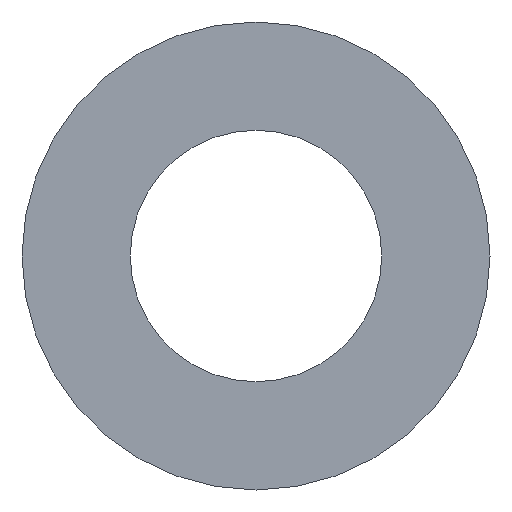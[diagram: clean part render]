
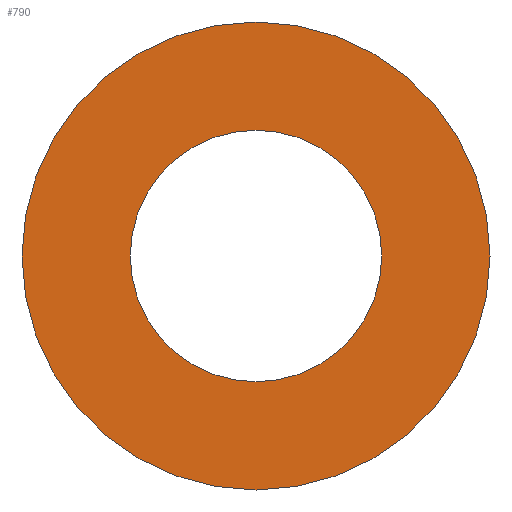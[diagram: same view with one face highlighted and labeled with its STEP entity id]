
A CAD part, left-side view. The second image highlights one B-rep face of the part: STEP entity #790.
In plain terms, the highlighted planar face has unit normal (-1, 0, 0).
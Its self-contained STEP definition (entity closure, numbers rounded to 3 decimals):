
#440=CARTESIAN_POINT('',(-16.058,94.416,64.002));
#450=DIRECTION('',(-1.,0.,0.));
#460=DIRECTION('',(0.,0.,-1.));
#470=AXIS2_PLACEMENT_3D('',#440,#450,#460);
#480=PLANE('',#470);
#490=CARTESIAN_POINT('',(-16.058,93.497,67.25));
#500=DIRECTION('',(-1.,0.,0.));
#510=DIRECTION('',(0.,0.,-1.));
#520=AXIS2_PLACEMENT_3D('',#490,#500,#510);
#530=CIRCLE('',#520,4.);
#540=CARTESIAN_POINT('',(-16.058,93.497,63.25));
#550=VERTEX_POINT('',#540);
#560=CARTESIAN_POINT('',(-16.058,93.497,71.25));
#570=VERTEX_POINT('',#560);
#580=EDGE_CURVE('',#550,#570,#530,.T.);
#590=ORIENTED_EDGE('',*,*,#580,.T.);
#600=EDGE_CURVE('',#570,#550,#530,.T.);
#610=ORIENTED_EDGE('',*,*,#600,.T.);
#620=EDGE_LOOP('',(#610,#590));
#630=FACE_OUTER_BOUND('',#620,.T.);
#640=CARTESIAN_POINT('',(-16.058,93.497,67.25));
#650=DIRECTION('',(-1.,0.,0.));
#660=DIRECTION('',(0.,0.,-1.));
#670=AXIS2_PLACEMENT_3D('',#640,#650,#660);
#680=CIRCLE('',#670,2.15);
#690=CARTESIAN_POINT('',(-16.058,93.497,65.1));
#700=VERTEX_POINT('',#690);
#710=CARTESIAN_POINT('',(-16.058,93.497,69.4));
#720=VERTEX_POINT('',#710);
#730=EDGE_CURVE('',#700,#720,#680,.T.);
#740=ORIENTED_EDGE('',*,*,#730,.F.);
#750=EDGE_CURVE('',#720,#700,#680,.T.);
#760=ORIENTED_EDGE('',*,*,#750,.F.);
#770=EDGE_LOOP('',(#760,#740));
#780=FACE_BOUND('',#770,.T.);
#790=ADVANCED_FACE('',(#630,#780),#480,.T.);
